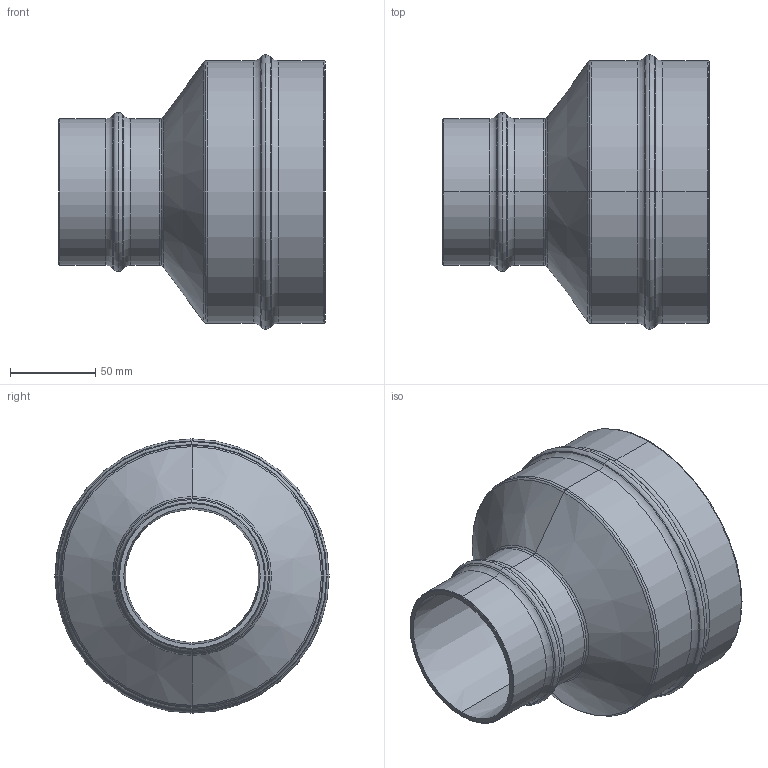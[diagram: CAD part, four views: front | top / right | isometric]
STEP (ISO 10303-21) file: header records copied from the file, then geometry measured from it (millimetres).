
FILE_DESCRIPTION((''),'2;1');
FILE_NAME('2014972100','2017-05-12T',('Administrator'),(''),'PRO/ENGINEER BY PARAMETRIC TECHNOLOGY CORPORATION, 2009360','PRO/ENGINEER BY PARAMETRIC TECHNOLOGY CORPORATION, 2009360','');
FILE_SCHEMA(('AUTOMOTIVE_DESIGN_CC2 { 1 2 10303 214 -1 1 5 2 }'));
Length unit declared in the file: millimetre
Products named in the file (1): 2014972100
Bounding box: 156.55 x 161.3 x 161.3 mm (x, y, z)
Volume: 364074.6 mm3; surface area: 130677.2 mm2
Topology: 1 solids, 1 shells, 66 faces, 133 edges, 69 vertices
Faces by surface type: torus 40, cone 16, cylinder 8, plane 2
Entity records: 2148 total; most frequent: DIRECTION 374, CARTESIAN_POINT 268, ORIENTED_EDGE 266, AXIS2_PLACEMENT_3D 175, PRESENTATION_STYLE_ASSIGNMENT 134, STYLED_ITEM 134, CURVE_STYLE 133, EDGE_CURVE 133
